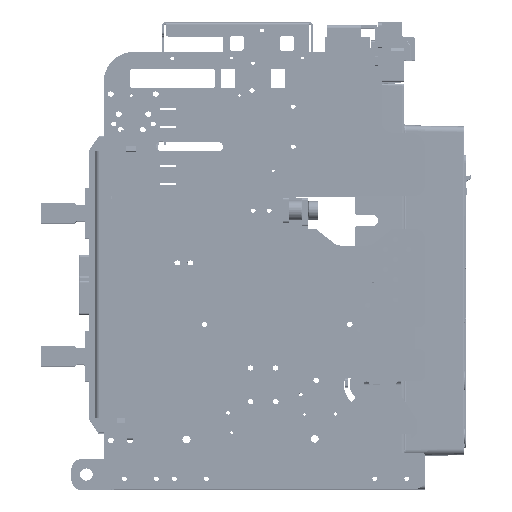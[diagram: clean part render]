
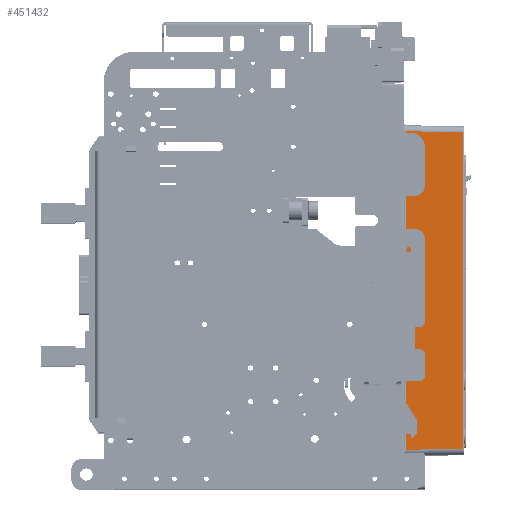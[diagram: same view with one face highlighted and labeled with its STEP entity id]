
A CAD part, top view. The second image highlights one B-rep face of the part: STEP entity #451432.
In plain terms, the highlighted planar face has unit normal (0.018, 0, 1) as drawn and (-1, 0, 0.017) by its records, which use the part's own axes.
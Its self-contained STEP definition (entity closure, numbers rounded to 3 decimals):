
#432812=DIRECTION('',(0.,-1.,0.));
#432813=VECTOR('',#432812,315.942);
#432814=CARTESIAN_POINT('',(-133.97,144.321,
108.017));
#432815=LINE('',#432814,#432813);
#432816=DIRECTION('',(0.017,0.017,1.));
#432817=VECTOR('',#432816,57.07);
#432818=CARTESIAN_POINT('',(-134.966,-172.617,
50.965));
#432819=LINE('',#432818,#432817);
#432820=DIRECTION('',(0.,1.,0.));
#432821=VECTOR('',#432820,317.934);
#432822=CARTESIAN_POINT('',(-134.966,-172.617,
50.965));
#432823=LINE('',#432822,#432821);
#432824=DIRECTION('',(-0.017,0.017,-1.));
#432825=VECTOR('',#432824,57.07);
#432826=CARTESIAN_POINT('',(-133.97,144.321,
108.017));
#432827=LINE('',#432826,#432825);
#447416=CARTESIAN_POINT('',(-133.97,144.321,
108.017));
#450407=CARTESIAN_POINT('',(-134.966,-172.617,
50.965));
#450408=CARTESIAN_POINT('',(-134.966,145.317,
50.965));
#450409=VERTEX_POINT('',#450407);
#450410=VERTEX_POINT('',#450408);
#450448=VERTEX_POINT('',#447416);
#450451=CARTESIAN_POINT('',(-133.97,-171.621,
108.017));
#450452=VERTEX_POINT('',#450451);
#451418=CARTESIAN_POINT('',(-135.,151.35,49.));
#451419=DIRECTION('',(-1.,0.,0.017));
#451420=DIRECTION('',(0.,-1.,0.));
#451421=AXIS2_PLACEMENT_3D('',#451418,#451419,#451420);
#451422=PLANE('',#451421);
#451424=ORIENTED_EDGE('',*,*,#451423,.T.);
#451426=ORIENTED_EDGE('',*,*,#451425,.F.);
#451427=ORIENTED_EDGE('',*,*,#451408,.T.);
#451429=ORIENTED_EDGE('',*,*,#451428,.F.);
#451430=EDGE_LOOP('',(#451424,#451426,#451427,#451429));
#451431=FACE_OUTER_BOUND('',#451430,.F.);
#451432=ADVANCED_FACE('',(#451431),#451422,.T.);
#451408=EDGE_CURVE('',#450409,#450410,#432823,.T.);
#451423=EDGE_CURVE('',#450448,#450452,#432815,.T.);
#451425=EDGE_CURVE('',#450409,#450452,#432819,.T.);
#451428=EDGE_CURVE('',#450448,#450410,#432827,.T.);
